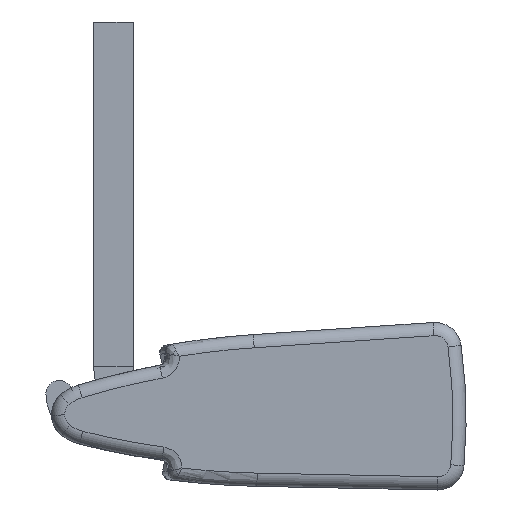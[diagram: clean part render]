
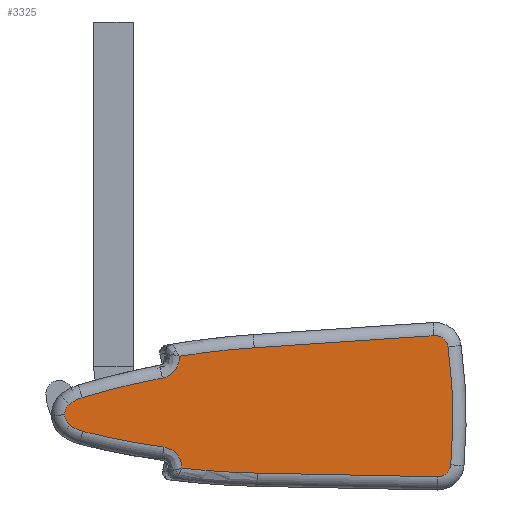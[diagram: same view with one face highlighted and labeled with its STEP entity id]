
A CAD part, left-side view. The second image highlights one B-rep face of the part: STEP entity #3325.
In plain terms, the highlighted planar face has unit normal (-1, 0, 0) as drawn and (0, -1, 0) by its records, which use the part's own axes.
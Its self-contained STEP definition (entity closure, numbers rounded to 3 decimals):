
#163 = VERTEX_POINT ( 'NONE', #6647 ) ;
#221 = DIRECTION ( 'NONE',  ( 0., 0., -1. ) ) ;
#226 = DIRECTION ( 'NONE',  ( 0., 0., -1. ) ) ;
#327 = EDGE_CURVE ( 'NONE', #7234, #4261, #5133, .T. ) ;
#502 = ORIENTED_EDGE ( 'NONE', *, *, #1575, .T. ) ;
#516 = CARTESIAN_POINT ( 'NONE',  ( 2.112, -1., -10.418 ) ) ;
#659 = EDGE_LOOP ( 'NONE', ( #2731, #899, #4809, #2257, #502, #4871, #3936, #7375, #1380, #2249, #975, #7072, #1425, #5704, #1203 ) ) ;
#716 = CARTESIAN_POINT ( 'NONE',  ( 2.475, -1., -5.138 ) ) ;
#777 = VERTEX_POINT ( 'NONE', #4485 ) ;
#899 = ORIENTED_EDGE ( 'NONE', *, *, #6212, .T. ) ;
#975 = ORIENTED_EDGE ( 'NONE', *, *, #4303, .T. ) ;
#977 = DIRECTION ( 'NONE',  ( 0., 0., -1. ) ) ;
#979 = DIRECTION ( 'NONE',  ( 0., -1., 0. ) ) ;
#1087 = CARTESIAN_POINT ( 'NONE',  ( 1.303, -1., -11.088 ) ) ;
#1203 = ORIENTED_EDGE ( 'NONE', *, *, #4903, .T. ) ;
#1280 = CARTESIAN_POINT ( 'NONE',  ( -1.334, -1., -10.898 ) ) ;
#1287 = CARTESIAN_POINT ( 'NONE',  ( -0.385, -1., -14.619 ) ) ;
#1380 = ORIENTED_EDGE ( 'NONE', *, *, #7062, .T. ) ;
#1383 = CIRCLE ( 'NONE', #2631, 30.5 ) ;
#1425 = ORIENTED_EDGE ( 'NONE', *, *, #3859, .T. ) ;
#1450 = DIRECTION ( 'NONE',  ( 0., -1., 0. ) ) ;
#1467 = AXIS2_PLACEMENT_3D ( 'NONE', #6737, #6683, #5427 ) ;
#1534 = CARTESIAN_POINT ( 'NONE',  ( 0., -1., -14.3 ) ) ;
#1546 = LINE ( 'NONE', #3376, #2334 ) ;
#1549 = AXIS2_PLACEMENT_3D ( 'NONE', #4744, #2243, #6545 ) ;
#1575 = EDGE_CURVE ( 'NONE', #6832, #2344, #5063, .T. ) ;
#1767 = VERTEX_POINT ( 'NONE', #3001 ) ;
#1774 = DIRECTION ( 'NONE',  ( 0., -1., 0. ) ) ;
#1828 = LINE ( 'NONE', #716, #4530 ) ;
#1958 = DIRECTION ( 'NONE',  ( 0.044, 0., 0.999 ) ) ;
#1992 = AXIS2_PLACEMENT_3D ( 'NONE', #3712, #1774, #5537 ) ;
#2093 = VERTEX_POINT ( 'NONE', #1287 ) ;
#2101 = DIRECTION ( 'NONE',  ( 0.044, 0., -0.999 ) ) ;
#2232 = VERTEX_POINT ( 'NONE', #4442 ) ;
#2243 = DIRECTION ( 'NONE',  ( 0., -1., 0. ) ) ;
#2249 = ORIENTED_EDGE ( 'NONE', *, *, #3369, .T. ) ;
#2257 = ORIENTED_EDGE ( 'NONE', *, *, #4467, .T. ) ;
#2334 = VECTOR ( 'NONE', #2101, 1000. ) ;
#2344 = VERTEX_POINT ( 'NONE', #2694 ) ;
#2585 = AXIS2_PLACEMENT_3D ( 'NONE', #1534, #1450, #226 ) ;
#2631 = AXIS2_PLACEMENT_3D ( 'NONE', #3595, #7254, #7955 ) ;
#2668 = EDGE_CURVE ( 'NONE', #163, #1767, #1383, .T. ) ;
#2694 = CARTESIAN_POINT ( 'NONE',  ( -2.222, -1., -0.269 ) ) ;
#2722 = DIRECTION ( 'NONE',  ( 0., -1., 0. ) ) ;
#2731 = ORIENTED_EDGE ( 'NONE', *, *, #327, .T. ) ;
#2842 = CARTESIAN_POINT ( 'NONE',  ( -2.665, -1., -0.787 ) ) ;
#2899 = EDGE_CURVE ( 'NONE', #2093, #7307, #6107, .T. ) ;
#3001 = CARTESIAN_POINT ( 'NONE',  ( -2.112, -1., -10.418 ) ) ;
#3251 = VERTEX_POINT ( 'NONE', #7051 ) ;
#3266 = CARTESIAN_POINT ( 'NONE',  ( 2.112, -1., -10.418 ) ) ;
#3325 = ADVANCED_FACE ( 'NONE', ( #7466 ), #6478, .T. ) ;
#3369 = EDGE_CURVE ( 'NONE', #5793, #777, #6195, .T. ) ;
#3376 = CARTESIAN_POINT ( 'NONE',  ( -2.368, -1., -7.587 ) ) ;
#3392 = CARTESIAN_POINT ( 'NONE',  ( 28.103, -1., -6.257 ) ) ;
#3406 = DIRECTION ( 'NONE',  ( 0., 0., -1. ) ) ;
#3504 = CARTESIAN_POINT ( 'NONE',  ( 2.222, -1., -0.269 ) ) ;
#3538 = AXIS2_PLACEMENT_3D ( 'NONE', #6316, #2722, #5705 ) ;
#3595 = CARTESIAN_POINT ( 'NONE',  ( 28.103, -1., -6.257 ) ) ;
#3606 = CIRCLE ( 'NONE', #1992, 1.3 ) ;
#3712 = CARTESIAN_POINT ( 'NONE',  ( -0.616, -1., -13.79 ) ) ;
#3776 = CARTESIAN_POINT ( 'NONE',  ( -1.303, -1., -11.088 ) ) ;
#3791 = DIRECTION ( 'NONE',  ( 0., 0., -1. ) ) ;
#3823 = CARTESIAN_POINT ( 'NONE',  ( -2.112, -1., -10.418 ) ) ;
#3859 = EDGE_CURVE ( 'NONE', #7307, #2232, #6859, .T. ) ;
#3936 = ORIENTED_EDGE ( 'NONE', *, *, #4317, .T. ) ;
#3974 = AXIS2_PLACEMENT_3D ( 'NONE', #7630, #7684, #3406 ) ;
#4057 = VERTEX_POINT ( 'NONE', #4952 ) ;
#4073 = DIRECTION ( 'NONE',  ( 0., -1., 0. ) ) ;
#4258 = EDGE_CURVE ( 'NONE', #3251, #4057, #1828, .T. ) ;
#4261 = VERTEX_POINT ( 'NONE', #3266 ) ;
#4303 = EDGE_CURVE ( 'NONE', #777, #2093, #7829, .T. ) ;
#4317 = EDGE_CURVE ( 'NONE', #4894, #163, #1546, .T. ) ;
#4355 = CARTESIAN_POINT ( 'NONE',  ( -1.435, -1., -10.724 ) ) ;
#4404 = CARTESIAN_POINT ( 'NONE',  ( -1.92, -1., -10.413 ) ) ;
#4442 = CARTESIAN_POINT ( 'NONE',  ( 0.385, -1., -14.619 ) ) ;
#4455 = CARTESIAN_POINT ( 'NONE',  ( -1.73, -1., -10.479 ) ) ;
#4467 = EDGE_CURVE ( 'NONE', #4057, #6832, #7247, .T. ) ;
#4470 = CARTESIAN_POINT ( 'NONE',  ( -2.166, -1., -0.766 ) ) ;
#4485 = CARTESIAN_POINT ( 'NONE',  ( -0.638, -1., -14.133 ) ) ;
#4519 = DIRECTION ( 'NONE',  ( 0., -1., 0. ) ) ;
#4530 = VECTOR ( 'NONE', #1958, 1000. ) ;
#4635 = CARTESIAN_POINT ( 'NONE',  ( 0.616, -1., -13.79 ) ) ;
#4671 = DIRECTION ( 'NONE',  ( 0., -1., 0. ) ) ;
#4704 = VERTEX_POINT ( 'NONE', #4942 ) ;
#4744 = CARTESIAN_POINT ( 'NONE',  ( 2.166, -1., -0.766 ) ) ;
#4786 = CARTESIAN_POINT ( 'NONE',  ( 1.436, -1., -10.722 ) ) ;
#4809 = ORIENTED_EDGE ( 'NONE', *, *, #4258, .T. ) ;
#4836 = CARTESIAN_POINT ( 'NONE',  ( 1.729, -1., -10.48 ) ) ;
#4871 = ORIENTED_EDGE ( 'NONE', *, *, #5878, .T. ) ;
#4894 = VERTEX_POINT ( 'NONE', #2842 ) ;
#4903 = EDGE_CURVE ( 'NONE', #4704, #7234, #7046, .T. ) ;
#4942 = CARTESIAN_POINT ( 'NONE',  ( 0.638, -1., -14.133 ) ) ;
#4952 = CARTESIAN_POINT ( 'NONE',  ( 2.665, -1., -0.787 ) ) ;
#5063 = CIRCLE ( 'NONE', #3538, 19.6 ) ;
#5116 = AXIS2_PLACEMENT_3D ( 'NONE', #4635, #4519, #221 ) ;
#5133 = B_SPLINE_CURVE_WITH_KNOTS ( 'NONE', 3,
 ( #1087, #7181, #4786, #4836, #7833, #516 ),
 .UNSPECIFIED., .F., .F.,
 ( 4, 2, 4 ),
 ( 0., 0.001, 0.001 ),
 .UNSPECIFIED. ) ;
#5307 = CARTESIAN_POINT ( 'NONE',  ( 1.303, -1., -11.088 ) ) ;
#5327 = CARTESIAN_POINT ( 'NONE',  ( 28.103, -1., -6.257 ) ) ;
#5427 = DIRECTION ( 'NONE',  ( 0., 0., -1. ) ) ;
#5470 = AXIS2_PLACEMENT_3D ( 'NONE', #7754, #979, #6457 ) ;
#5537 = DIRECTION ( 'NONE',  ( 0., 0., -1. ) ) ;
#5655 = DIRECTION ( 'NONE',  ( 0., -1., 0. ) ) ;
#5704 = ORIENTED_EDGE ( 'NONE', *, *, #7440, .T. ) ;
#5705 = DIRECTION ( 'NONE',  ( 0., 0., -1. ) ) ;
#5793 = VERTEX_POINT ( 'NONE', #7980 ) ;
#5878 = EDGE_CURVE ( 'NONE', #2344, #4894, #6835, .T. ) ;
#6066 = CARTESIAN_POINT ( 'NONE',  ( 0., -1., -14.8 ) ) ;
#6107 = CIRCLE ( 'NONE', #3974, 0.5 ) ;
#6142 = CIRCLE ( 'NONE', #1467, 30.5 ) ;
#6195 = CIRCLE ( 'NONE', #7811, 29.8 ) ;
#6212 = EDGE_CURVE ( 'NONE', #4261, #3251, #6142, .T. ) ;
#6316 = CARTESIAN_POINT ( 'NONE',  ( 0., -1., -19.742 ) ) ;
#6457 = DIRECTION ( 'NONE',  ( 0., 0., -1. ) ) ;
#6478 = PLANE ( 'NONE',  #7141 ) ;
#6492 = B_SPLINE_CURVE_WITH_KNOTS ( 'NONE', 3,
 ( #3823, #4404, #4455, #4355, #1280, #3776 ),
 .UNSPECIFIED., .F., .F.,
 ( 4, 2, 4 ),
 ( 0., 0.001, 0.001 ),
 .UNSPECIFIED. ) ;
#6545 = DIRECTION ( 'NONE',  ( 0., 0., -1. ) ) ;
#6647 = CARTESIAN_POINT ( 'NONE',  ( -2.368, -1., -7.587 ) ) ;
#6683 = DIRECTION ( 'NONE',  ( 0., -1., 0. ) ) ;
#6737 = CARTESIAN_POINT ( 'NONE',  ( -28.103, -1., -6.257 ) ) ;
#6832 = VERTEX_POINT ( 'NONE', #3504 ) ;
#6835 = CIRCLE ( 'NONE', #7356, 0.5 ) ;
#6859 = CIRCLE ( 'NONE', #2585, 0.5 ) ;
#7046 = CIRCLE ( 'NONE', #5470, 29.8 ) ;
#7051 = CARTESIAN_POINT ( 'NONE',  ( 2.368, -1., -7.587 ) ) ;
#7062 = EDGE_CURVE ( 'NONE', #1767, #5793, #6492, .T. ) ;
#7072 = ORIENTED_EDGE ( 'NONE', *, *, #2899, .T. ) ;
#7141 = AXIS2_PLACEMENT_3D ( 'NONE', #3392, #4073, #977 ) ;
#7158 = DIRECTION ( 'NONE',  ( 0., 0., -1. ) ) ;
#7181 = CARTESIAN_POINT ( 'NONE',  ( 1.334, -1., -10.898 ) ) ;
#7234 = VERTEX_POINT ( 'NONE', #5307 ) ;
#7247 = CIRCLE ( 'NONE', #1549, 0.5 ) ;
#7254 = DIRECTION ( 'NONE',  ( 0., -1., 0. ) ) ;
#7307 = VERTEX_POINT ( 'NONE', #6066 ) ;
#7356 = AXIS2_PLACEMENT_3D ( 'NONE', #4470, #5655, #3791 ) ;
#7375 = ORIENTED_EDGE ( 'NONE', *, *, #2668, .T. ) ;
#7440 = EDGE_CURVE ( 'NONE', #2232, #4704, #3606, .T. ) ;
#7466 = FACE_OUTER_BOUND ( 'NONE', #659, .T. ) ;
#7630 = CARTESIAN_POINT ( 'NONE',  ( 0., -1., -14.3 ) ) ;
#7684 = DIRECTION ( 'NONE',  ( 0., -1., 0. ) ) ;
#7754 = CARTESIAN_POINT ( 'NONE',  ( -28.103, -1., -6.257 ) ) ;
#7811 = AXIS2_PLACEMENT_3D ( 'NONE', #5327, #4671, #7158 ) ;
#7829 = CIRCLE ( 'NONE', #5116, 1.3 ) ;
#7833 = CARTESIAN_POINT ( 'NONE',  ( 1.922, -1., -10.413 ) ) ;
#7955 = DIRECTION ( 'NONE',  ( 0., 0., -1. ) ) ;
#7980 = CARTESIAN_POINT ( 'NONE',  ( -1.303, -1., -11.088 ) ) ;
